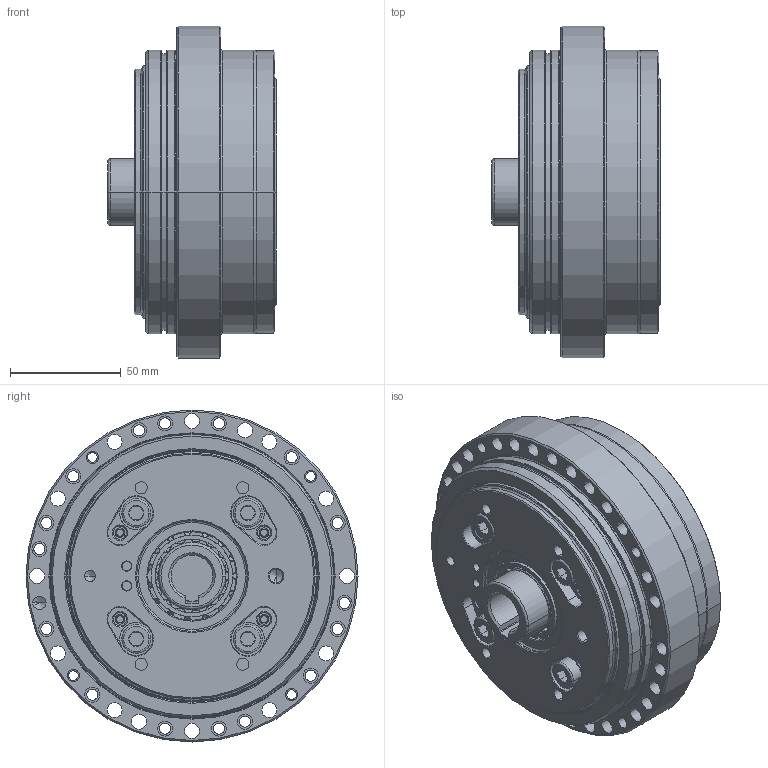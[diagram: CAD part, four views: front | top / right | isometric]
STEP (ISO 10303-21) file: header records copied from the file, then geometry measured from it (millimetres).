
FILE_DESCRIPTION((''),'2;1');
FILE_NAME('140-000E-P19-0583-3DMODEL','2014-06-12T',('feckov'),(''),'PRO/ENGINEER BY PARAMETRIC TECHNOLOGY CORPORATION, 2014090','PRO/ENGINEER BY PARAMETRIC TECHNOLOGY CORPORATION, 2014090','');
FILE_SCHEMA(('CONFIG_CONTROL_DESIGN'));
Length unit declared in the file: millimetre
Products named in the file (1): 140-000E-P19-0583-3DMODEL
Bounding box: 76 x 150 x 150 mm (x, y, z)
Volume: 798271.9 mm3; surface area: 154163.8 mm2
Topology: 1 solids, 6 shells, 1521 faces, 3896 edges, 2296 vertices
Faces by surface type: plane 582, cylinder 411, cone 334, torus 194
Entity records: 49723 total; most frequent: CARTESIAN_POINT 12198, DIRECTION 8453, ORIENTED_EDGE 7650, EDGE_CURVE 3825, AXIS2_PLACEMENT_3D 3507, VERTEX_POINT 2293, CIRCLE 1985, EDGE_LOOP 1714
